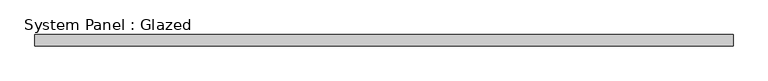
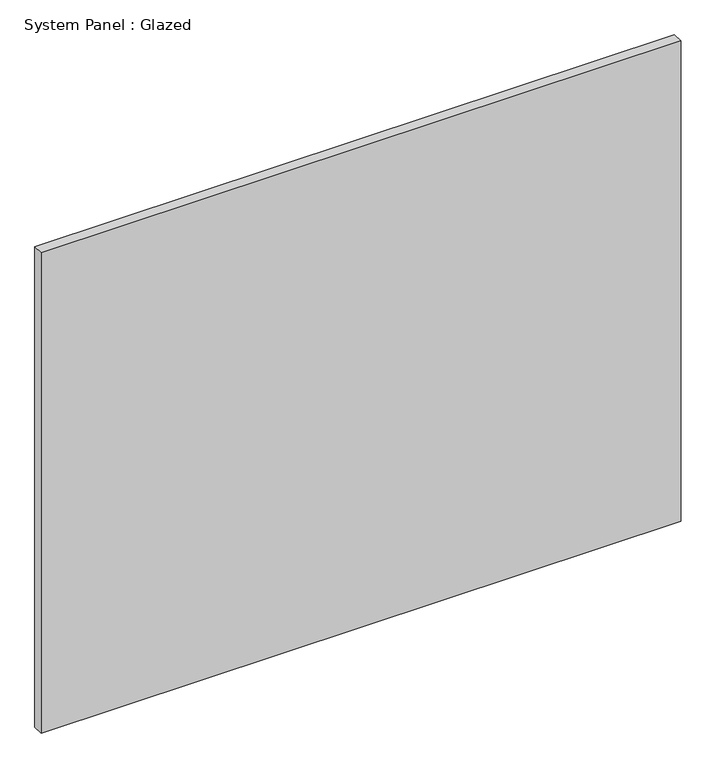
"""IFC4 building model written with IfcOpenShell, lengths in millimetres: plate geometry, System Panel : Glazed."""

from ifc_helpers import new_model, si_unit, origin, origin_with_axes, place, context, project, spatial, polyline, outline, extrude, source, transform, mapped, element, save


def system_panel_glazed_85e1fe50(model_context):
    return source(origin(), model_context, "Body", "SweptSolid", [
        extrude(outline(polyline([(755.0, -12.5), (-755.0, -12.5), (-755.0, 12.5), (755.0, 12.5), (755.0, -12.5)])), origin_with_axes(), (0.0, 0.0, 1.0), 1197.5),
    ])


if __name__ == "__main__":
    model = new_model("IFC4")
    model_context = context("Model", 3, world=origin())
    ifc_project = project(units=[si_unit("LENGTHUNIT", "METRE", prefix="MILLI")], contexts=[model_context])
    site = spatial("IfcSite", under=ifc_project)
    building = spatial("IfcBuilding", under=site)
    placement = place(None, origin())
    system_panel_glazed_shape = system_panel_glazed_85e1fe50(model_context)
    element("IfcPlate", 1, ObjectType="System Panel : Glazed", at=placement, inside=building, context=model_context, shape_type="MappedRepresentation", body=[
        mapped(system_panel_glazed_shape, transform((0.0, 0.0, 0.0), x_axis=(1.0, 0.0, 0.0), y_axis=(0.0, 1.0, 0.0), z_axis=(0.0, 0.0, 1.0))),
    ])
    save(model, "model.ifc")
